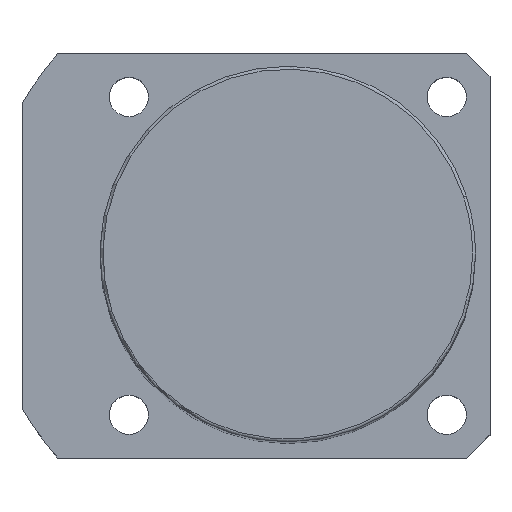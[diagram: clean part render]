
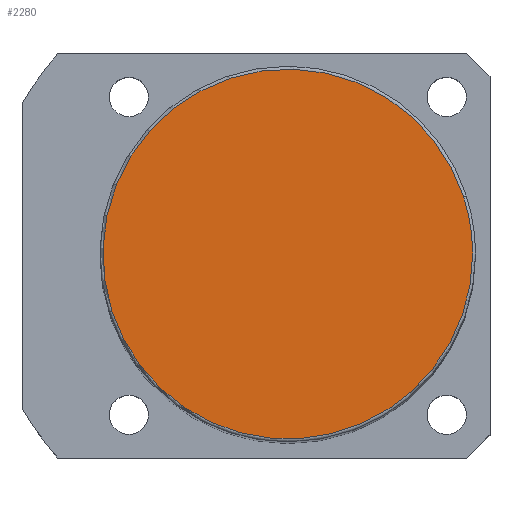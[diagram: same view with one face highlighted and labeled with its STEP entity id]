
A CAD part, top view. The second image highlights one B-rep face of the part: STEP entity #2280.
In plain terms, the highlighted planar face has unit normal (0, 0, 1).
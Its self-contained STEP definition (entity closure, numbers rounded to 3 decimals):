
#2213=CARTESIAN_POINT('',(30.434,9.889,196.0));
#2214=VERTEX_POINT('',#2213);
#2232=CARTESIAN_POINT('',(-30.434,-9.889,196.0));
#2233=VERTEX_POINT('',#2232);
#2241=CARTESIAN_POINT('',(0.0,0.0,196.0));
#2242=DIRECTION('',(0.0,0.0,1.0));
#2243=DIRECTION('',(1.0,0.0,0.0));
#2244=AXIS2_PLACEMENT_3D('',#2241,#2242,#2243);
#2245=CIRCLE('',#2244,32.0);
#2246=EDGE_CURVE('no 2131',#2214,#2233,#2245,.T.);
#2256=CARTESIAN_POINT('',(32.0,0.0,196.0));
#2257=VERTEX_POINT('',#2256);
#2258=CARTESIAN_POINT('',(0.0,0.0,196.0));
#2259=DIRECTION('',(0.0,0.0,1.0));
#2260=DIRECTION('',(1.0,0.0,0.0));
#2261=AXIS2_PLACEMENT_3D('',#2258,#2259,#2260);
#2262=CIRCLE('',#2261,32.0);
#2263=EDGE_CURVE('no 2140',#2257,#2214,#2262,.T.);
#2264=ORIENTED_EDGE('',*,*,#2263,.T.);
#2265=ORIENTED_EDGE('',*,*,#2246,.T.);
#2266=CARTESIAN_POINT('',(0.0,0.0,196.0));
#2267=DIRECTION('',(0.0,0.0,1.0));
#2268=DIRECTION('',(1.0,0.0,0.0));
#2269=AXIS2_PLACEMENT_3D('',#2266,#2267,#2268);
#2270=CIRCLE('',#2269,32.0);
#2271=EDGE_CURVE('no 2146',#2233,#2257,#2270,.T.);
#2272=ORIENTED_EDGE('',*,*,#2271,.T.);
#2273=EDGE_LOOP('',(#2264,#2265,#2272));
#2274=FACE_OUTER_BOUND('',#2273,.T.);
#2275=CARTESIAN_POINT('',(0.0,0.0,196.0));
#2276=DIRECTION('',(0.0,0.0,1.0));
#2277=DIRECTION('',(1.0,0.0,0.0));
#2278=AXIS2_PLACEMENT_3D('',#2275,#2276,#2277);
#2279=PLANE('',#2278);
#2280=ADVANCED_FACE('no 2133',(#2274),#2279,.T.);
